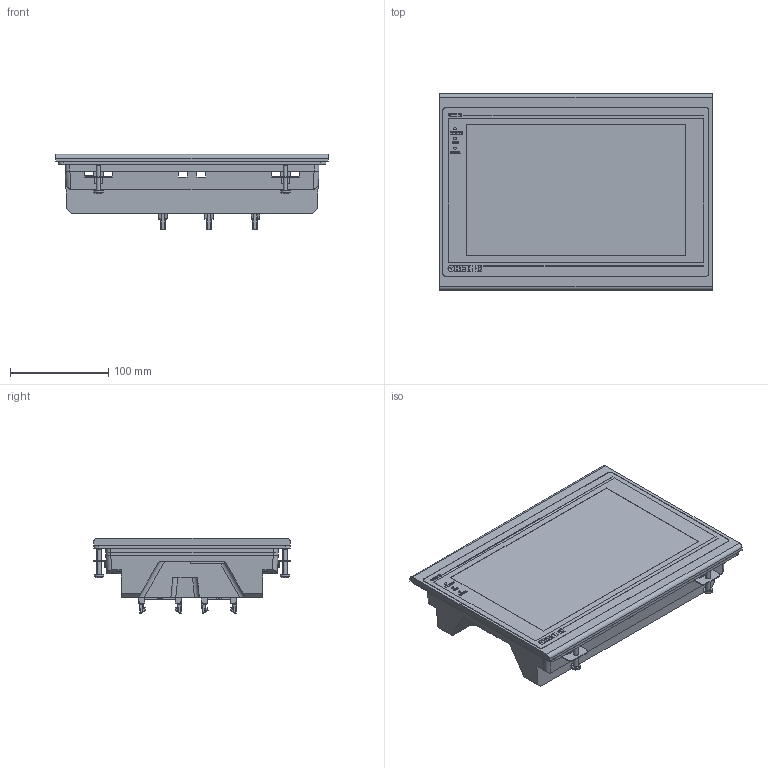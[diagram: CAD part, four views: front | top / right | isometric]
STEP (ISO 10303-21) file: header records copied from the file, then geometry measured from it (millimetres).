
FILE_DESCRIPTION (( 'STEP AP214' ), '1' );
FILE_NAME ('3D ìîäåëü ÑÏÊ110.Ä.72.STEP', '2017-08-31T11:53:36', ( '' ), ( '' ), 'SwSTEP 2.0', 'SolidWorks 2011', '' );
FILE_SCHEMA (( 'AUTOMOTIVE_DESIGN' ));
Length unit declared in the file: millimetre
Products named in the file (14): Êëåììíèê 3çåë; slotted pan head screw_din_ISO 1580 - M3 x 10 --- 10N; ÑÏÊ110.Ä Êîðïóñ çàä; USB ðîçåòêà; ﾇ琥韲 ﾑﾏﾊ110_00; SMC-14_00; pan head cross recess screw_iso_ISO 7045 - M5 x 25 - Z --- 25N; Ïðîêëàäêà ÑÏÊ110.Ä_00; SPK110_001F02M_00; SMC-20_00; 3D ìîäåëü ÑÏÊ110.Ä.72; Êëåììíèê 5çåë; ÑÏÊ110.Ä Êîðïóñ ïåðåä; USB A
Assembly tree (29 placements, depth 2):
  3D ìîäåëü ÑÏÊ110.Ä.72
    ÑÏÊ110.Ä Êîðïóñ ïåðåä
    ÑÏÊ110.Ä Êîðïóñ çàä
    SPK110_001F02M_00
    SMC-20_00  x3
    SMC-14_00  x3
    USB ðîçåòêà
    USB A
    Êëåììíèê 3çåë
    slotted pan head screw_din_ISO 1580 - M3 x 10 --- 10N  x6
    Êëåììíèê 5çåë  x2
    Ïðîêëàäêà ÑÏÊ110.Ä_00
    pan head cross recess screw_iso_ISO 7045 - M5 x 25 - Z --- 25N  x4
    ﾇ琥韲 ﾑﾏﾊ110_00  x4
Bounding box: 277 x 201 x 76.47 mm (x, y, z)
Volume: 638313.7 mm3; surface area: 467501 mm2
Topology: 153 solids, 153 shells, 10227 faces, 27873 edges, 18174 vertices
Faces by surface type: plane 7720, bspline 1600, cylinder 835, cone 36, torus 28, sphere 8
Entity records: 298175 total; most frequent: CARTESIAN_POINT 61589, ORIENTED_EDGE 38354, DIRECTION 27870, EDGE_CURVE 19177, LINE 15538, VECTOR 15538, VERTEX_POINT 12725, EDGE_LOOP 7296
